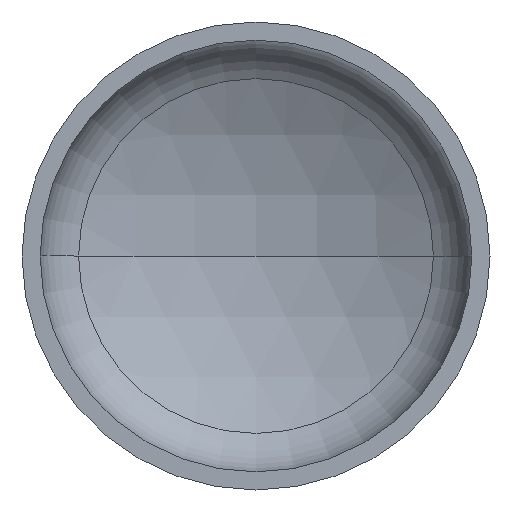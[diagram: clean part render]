
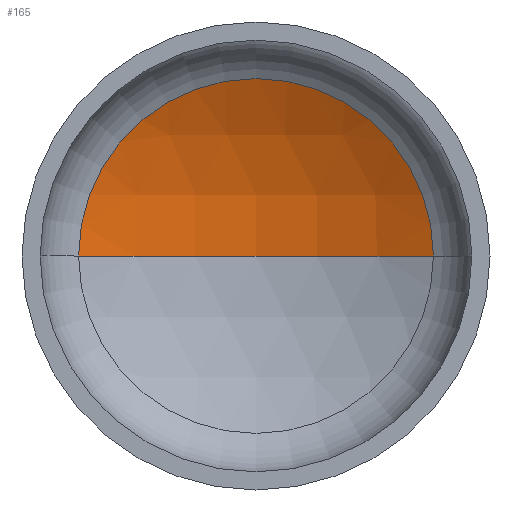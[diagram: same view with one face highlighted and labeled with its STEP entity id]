
A CAD part, front view. The second image highlights one B-rep face of the part: STEP entity #165.
In plain terms, the highlighted spherical face has radius 640 mm.
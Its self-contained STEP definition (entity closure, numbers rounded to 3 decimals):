
#2 = AXIS2_PLACEMENT_3D ( 'NONE', #362, #216, #385 ) ;
#11 = AXIS2_PLACEMENT_3D ( 'NONE', #257, #159, #206 ) ;
#18 = CARTESIAN_POINT ( 'NONE',  ( 0., 210.08, 0. ) ) ;
#19 = ORIENTED_EDGE ( 'NONE', *, *, #379, .T. ) ;
#23 = EDGE_LOOP ( 'NONE', ( #81, #19, #251 ) ) ;
#56 = AXIS2_PLACEMENT_3D ( 'NONE', #222, #220, #221 ) ;
#81 = ORIENTED_EDGE ( 'NONE', *, *, #356, .F. ) ;
#97 = VERTEX_POINT ( 'NONE', #302 ) ;
#147 = VERTEX_POINT ( 'NONE', #289 ) ;
#158 = VERTEX_POINT ( 'NONE', #294 ) ;
#159 = DIRECTION ( 'NONE',  ( 0., 0., 1. ) ) ;
#165 = ADVANCED_FACE ( 'NONE', ( #170 ), #406, .F. ) ;
#170 = FACE_OUTER_BOUND ( 'NONE', #23, .T. ) ;
#206 = DIRECTION ( 'NONE',  ( 1., 0., 0. ) ) ;
#216 = DIRECTION ( 'NONE',  ( 0., 0., -1. ) ) ;
#220 = DIRECTION ( 'NONE',  ( 0., 0., -1. ) ) ;
#221 = DIRECTION ( 'NONE',  ( -1., 0., 0. ) ) ;
#222 = CARTESIAN_POINT ( 'NONE',  ( 0., -353.529, 0. ) ) ;
#246 = CIRCLE ( 'NONE', #11, 640. ) ;
#251 = ORIENTED_EDGE ( 'NONE', *, *, #384, .T. ) ;
#257 = CARTESIAN_POINT ( 'NONE',  ( 0., -353.529, 0. ) ) ;
#275 = DIRECTION ( 'NONE',  ( 0., -1., 0. ) ) ;
#281 = CIRCLE ( 'NONE', #373, 303.223 ) ;
#289 = CARTESIAN_POINT ( 'NONE',  ( -303.223, 210.08, 0. ) ) ;
#294 = CARTESIAN_POINT ( 'NONE',  ( 303.223, 210.08, 0. ) ) ;
#302 = CARTESIAN_POINT ( 'NONE',  ( 0., 286.471, 0. ) ) ;
#356 = EDGE_CURVE ( 'NONE', #97, #147, #246, .T. ) ;
#362 = CARTESIAN_POINT ( 'NONE',  ( 0., -353.529, 0. ) ) ;
#371 = CIRCLE ( 'NONE', #2, 640. ) ;
#373 = AXIS2_PLACEMENT_3D ( 'NONE', #18, #275, #380 ) ;
#379 = EDGE_CURVE ( 'NONE', #97, #158, #371, .T. ) ;
#380 = DIRECTION ( 'NONE',  ( 1., 0., 0. ) ) ;
#384 = EDGE_CURVE ( 'NONE', #158, #147, #281, .T. ) ;
#385 = DIRECTION ( 'NONE',  ( -1., 0., 0. ) ) ;
#406 = SPHERICAL_SURFACE ( 'NONE', #56, 640. ) ;
